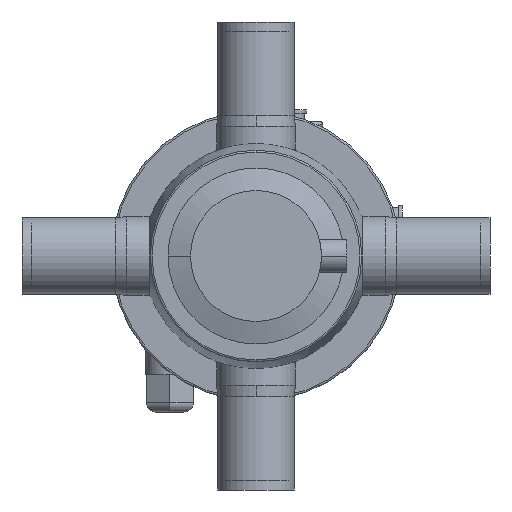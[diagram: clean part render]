
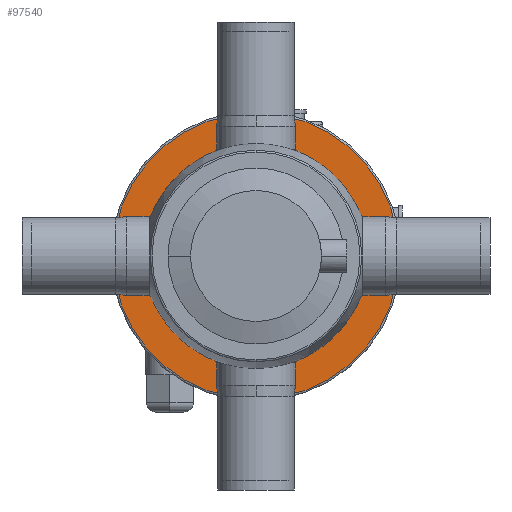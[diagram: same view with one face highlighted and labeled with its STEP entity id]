
A CAD part, front view. The second image highlights one B-rep face of the part: STEP entity #97540.
In plain terms, the highlighted planar face has unit normal (0, -1, 0).
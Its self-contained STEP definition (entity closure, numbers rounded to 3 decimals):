
#97050=CARTESIAN_POINT('',(59.,-15.,0.))
;
#97060=VERTEX_POINT('',#97050);
#97150=CARTESIAN_POINT('',(-59.,-15.,0.)
);
#97160=VERTEX_POINT('',#97150);
#97190=CARTESIAN_POINT('',(0.,-15.,
0.));
#97200=DIRECTION('',(0.,1.,0.));
#97210=DIRECTION('',(1.,0.,0.));
#97220=AXIS2_PLACEMENT_3D('',#97190,#97200,#97210);
#97230=CIRCLE('',#97220,59.);
#97240=EDGE_CURVE('',#97160,#97060,#97230,.T.);
#97290=CARTESIAN_POINT('',(66.7,-15.,0.)
);
#97300=DIRECTION('',(-0.,1.,0.));
#97310=DIRECTION('',(1.,0.,0.));
#97320=AXIS2_PLACEMENT_3D('',#97290,#97300,#97310);
#97330=PLANE('',#97320);
#97340=EDGE_CURVE('',#97060,#97160,#97230,.T.);
#97350=ORIENTED_EDGE('',*,*,#97340,.T.);
#97360=ORIENTED_EDGE('',*,*,#97240,.T.);
#97370=EDGE_LOOP('',(#97360,#97350));
#97380=FACE_BOUND('',#97370,.T.);
#97390=CARTESIAN_POINT('',(0.,-15.,
0.));
#97400=DIRECTION('',(0.,1.,0.));
#97410=DIRECTION('',(1.,0.,0.));
#97420=AXIS2_PLACEMENT_3D('',#97390,#97400,#97410);
#97430=CIRCLE('',#97420,76.5);
#97440=CARTESIAN_POINT('',(76.5,-15.,0.)
);
#97450=VERTEX_POINT('',#97440);
#97460=CARTESIAN_POINT('',(-76.5,-15.,0.
));
#97470=VERTEX_POINT('',#97460);
#97480=EDGE_CURVE('',#97450,#97470,#97430,.T.);
#97490=ORIENTED_EDGE('',*,*,#97480,.F.);
#97500=EDGE_CURVE('',#97470,#97450,#97430,.T.);
#97510=ORIENTED_EDGE('',*,*,#97500,.F.);
#97520=EDGE_LOOP('',(#97510,#97490));
#97530=FACE_OUTER_BOUND('',#97520,.T.);
#97540=ADVANCED_FACE('',(#97380,#97530),#97330,.F.);
